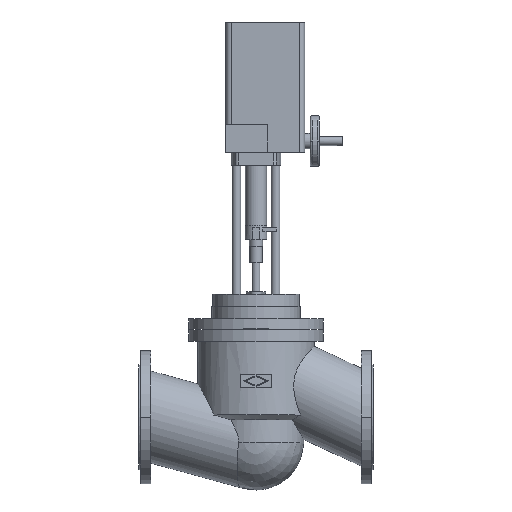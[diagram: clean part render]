
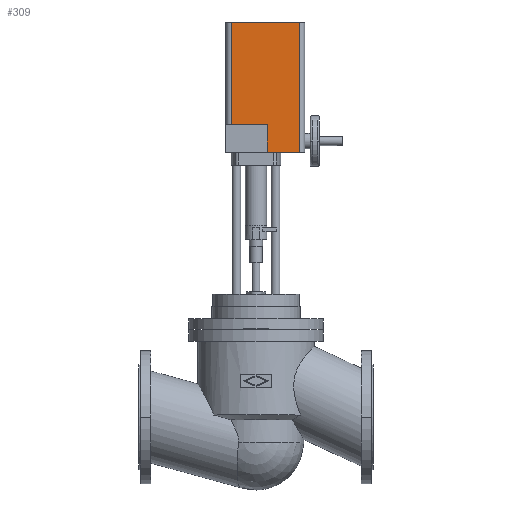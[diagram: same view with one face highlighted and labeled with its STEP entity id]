
A CAD part, top view. The second image highlights one B-rep face of the part: STEP entity #309.
In plain terms, the highlighted planar face has unit normal (0, 0, 1).
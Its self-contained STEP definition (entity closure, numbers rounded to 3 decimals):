
#309 = ADVANCED_FACE( '', ( #763 ), #764, .T. );
#763 = FACE_OUTER_BOUND( '', #1226, .T. );
#764 = PLANE( '', #1227 );
#1226 = EDGE_LOOP( '', ( #2731, #2732, #2733, #2734, #2735, #2736 ) );
#1227 = AXIS2_PLACEMENT_3D( '', #2737, #2738, #2739 );
#2731 = ORIENTED_EDGE( '', *, *, #3269, .T. );
#2732 = ORIENTED_EDGE( '', *, *, #3274, .T. );
#2733 = ORIENTED_EDGE( '', *, *, #3282, .T. );
#2734 = ORIENTED_EDGE( '', *, *, #3283, .T. );
#2735 = ORIENTED_EDGE( '', *, *, #3284, .T. );
#2736 = ORIENTED_EDGE( '', *, *, #3280, .F. );
#2737 = CARTESIAN_POINT( '', ( 410.5, 677.5, 102.5 ) );
#2738 = DIRECTION( '', ( 0., 0., 1. ) );
#2739 = DIRECTION( '', ( 1., 0., 0. ) );
#3269 = EDGE_CURVE( '', #4070, #4068, #4071, .T. );
#3274 = EDGE_CURVE( '', #4068, #4078, #4079, .T. );
#3280 = EDGE_CURVE( '', #4070, #4088, #4089, .T. );
#3282 = EDGE_CURVE( '', #4078, #4091, #4092, .T. );
#3283 = EDGE_CURVE( '', #4091, #4093, #4094, .T. );
#3284 = EDGE_CURVE( '', #4093, #4088, #4095, .T. );
#4068 = VERTEX_POINT( '', #5684 );
#4070 = VERTEX_POINT( '', #5687 );
#4071 = LINE( '', #5688, #5689 );
#4078 = VERTEX_POINT( '', #5699 );
#4079 = LINE( '', #5700, #5701 );
#4088 = VERTEX_POINT( '', #5715 );
#4089 = LINE( '', #5716, #5717 );
#4091 = VERTEX_POINT( '', #5719 );
#4092 = LINE( '', #5720, #5721 );
#4093 = VERTEX_POINT( '', #5722 );
#4094 = LINE( '', #5723, #5724 );
#4095 = LINE( '', #5725, #5726 );
#5684 = CARTESIAN_POINT( '', ( 329., 749., 102.5 ) );
#5687 = CARTESIAN_POINT( '', ( 236.5, 749., 102.5 ) );
#5688 = CARTESIAN_POINT( '', ( 355.25, 749., 102.5 ) );
#5689 = VECTOR( '', #6694, 1. );
#5699 = CARTESIAN_POINT( '', ( 329., 677.5, 102.5 ) );
#5700 = CARTESIAN_POINT( '', ( 329., 677.5, 102.5 ) );
#5701 = VECTOR( '', #6701, 1. );
#5715 = CARTESIAN_POINT( '', ( 236.5, 1011., 102.5 ) );
#5716 = CARTESIAN_POINT( '', ( 236.5, 677.5, 102.5 ) );
#5717 = VECTOR( '', #6707, 1. );
#5719 = CARTESIAN_POINT( '', ( 410.5, 677.5, 102.5 ) );
#5720 = CARTESIAN_POINT( '', ( 236.5, 677.5, 102.5 ) );
#5721 = VECTOR( '', #6711, 1. );
#5722 = CARTESIAN_POINT( '', ( 410.5, 1011., 102.5 ) );
#5723 = CARTESIAN_POINT( '', ( 410.5, 677.5, 102.5 ) );
#5724 = VECTOR( '', #6712, 1. );
#5725 = CARTESIAN_POINT( '', ( 236.5, 1011., 102.5 ) );
#5726 = VECTOR( '', #6713, 1. );
#6694 = DIRECTION( '', ( 1., 0., 0. ) );
#6701 = DIRECTION( '', ( 0., -1., 0. ) );
#6707 = DIRECTION( '', ( 0., 1., 0. ) );
#6711 = DIRECTION( '', ( 1., 0., 0. ) );
#6712 = DIRECTION( '', ( 0., 1., 0. ) );
#6713 = DIRECTION( '', ( -1., 0., 0. ) );
